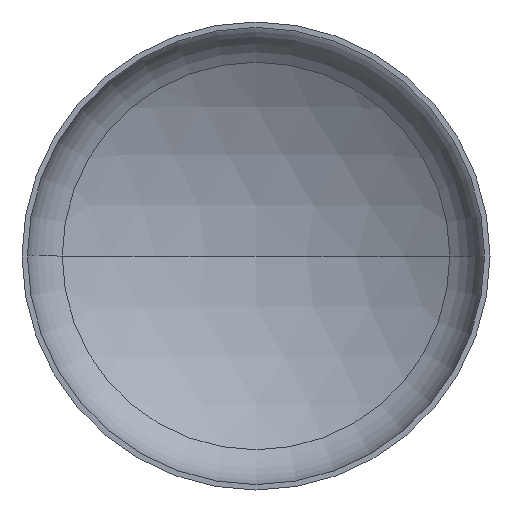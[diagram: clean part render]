
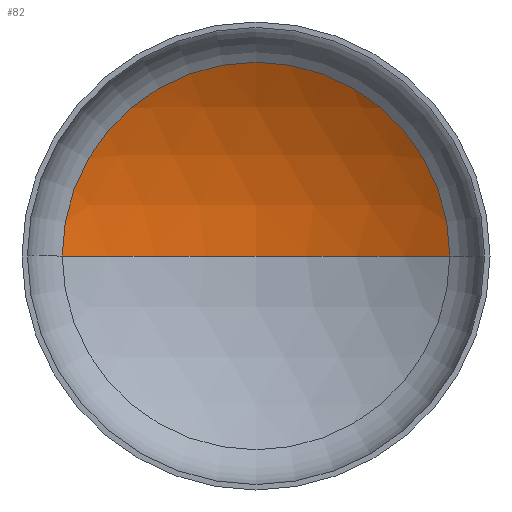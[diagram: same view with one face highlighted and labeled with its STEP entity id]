
A CAD part, front view. The second image highlights one B-rep face of the part: STEP entity #82.
In plain terms, the highlighted spherical face has radius 960 mm.
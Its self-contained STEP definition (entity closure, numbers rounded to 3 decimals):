
#10 = AXIS2_PLACEMENT_3D ( 'NONE', #118, #299, #362 ) ;
#18 = AXIS2_PLACEMENT_3D ( 'NONE', #116, #113, #115 ) ;
#22 = AXIS2_PLACEMENT_3D ( 'NONE', #88, #91, #111 ) ;
#24 = FACE_OUTER_BOUND ( 'NONE', #87, .T. ) ;
#42 = AXIS2_PLACEMENT_3D ( 'NONE', #277, #137, #263 ) ;
#47 = CARTESIAN_POINT ( 'NONE',  ( 496.723, 203.31, 0. ) ) ;
#82 = ADVANCED_FACE ( 'NONE', ( #24 ), #353, .F. ) ;
#83 = CIRCLE ( 'NONE', #10, 496.723 ) ;
#87 = EDGE_LOOP ( 'NONE', ( #262, #340, #289 ) ) ;
#88 = CARTESIAN_POINT ( 'NONE',  ( 0., -618.192, 0. ) ) ;
#91 = DIRECTION ( 'NONE',  ( 0., 0., -1. ) ) ;
#111 = DIRECTION ( 'NONE',  ( -1., 0., 0. ) ) ;
#113 = DIRECTION ( 'NONE',  ( 0., 0., 1. ) ) ;
#115 = DIRECTION ( 'NONE',  ( 1., 0., 0. ) ) ;
#116 = CARTESIAN_POINT ( 'NONE',  ( 0., -618.192, 0. ) ) ;
#118 = CARTESIAN_POINT ( 'NONE',  ( 0., 203.31, 0. ) ) ;
#137 = DIRECTION ( 'NONE',  ( 0., 0., -1. ) ) ;
#151 = CARTESIAN_POINT ( 'NONE',  ( -496.723, 203.31, 0. ) ) ;
#174 = CARTESIAN_POINT ( 'NONE',  ( 0., 341.808, 0. ) ) ;
#200 = VERTEX_POINT ( 'NONE', #151 ) ;
#250 = VERTEX_POINT ( 'NONE', #174 ) ;
#262 = ORIENTED_EDGE ( 'NONE', *, *, #325, .F. ) ;
#263 = DIRECTION ( 'NONE',  ( -1., 0., 0. ) ) ;
#277 = CARTESIAN_POINT ( 'NONE',  ( 0., -618.192, 0. ) ) ;
#289 = ORIENTED_EDGE ( 'NONE', *, *, #342, .T. ) ;
#299 = DIRECTION ( 'NONE',  ( 0., -1., 0. ) ) ;
#319 = VERTEX_POINT ( 'NONE', #47 ) ;
#321 = CIRCLE ( 'NONE', #18, 960. ) ;
#323 = EDGE_CURVE ( 'NONE', #250, #319, #387, .T. ) ;
#325 = EDGE_CURVE ( 'NONE', #250, #200, #321, .T. ) ;
#340 = ORIENTED_EDGE ( 'NONE', *, *, #323, .T. ) ;
#342 = EDGE_CURVE ( 'NONE', #319, #200, #83, .T. ) ;
#353 = SPHERICAL_SURFACE ( 'NONE', #42, 960. ) ;
#362 = DIRECTION ( 'NONE',  ( 1., 0., 0. ) ) ;
#387 = CIRCLE ( 'NONE', #22, 960. ) ;
